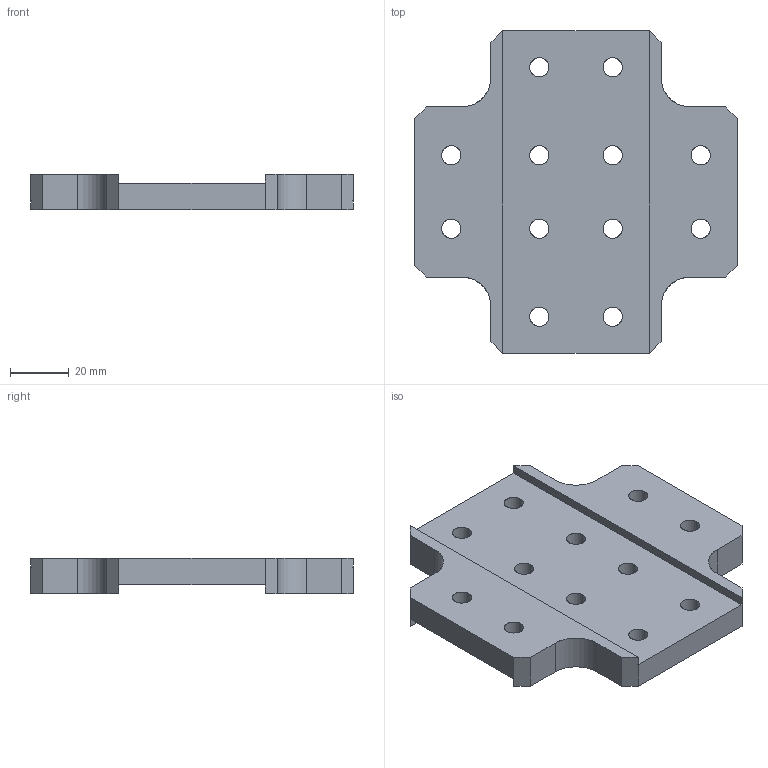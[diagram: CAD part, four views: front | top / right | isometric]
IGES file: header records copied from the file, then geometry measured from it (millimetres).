
Start section: SolidWorks IGES file using analytic representation for surfaces
Global section: file name: C:\Documents and Settings\CAD53\デスクトップ\IGES\N01911-301-1.IGS; native system: SolidWorks 2005 by SolidWorks Corporation; preprocessor: SolidWorks 2005 by SolidWorks Corporation; author: CAD53; date: 070530.085314; units: millimetre
Bounding box: 110 x 110 x 12 mm (x, y, z)
Surface area: 25568.7 mm2 (no closed solid volume)
Topology: 0 solids, 0 shells, 58 faces, 1096 edges, 1096 vertices
Faces by surface type: bspline 30, revolution 28
